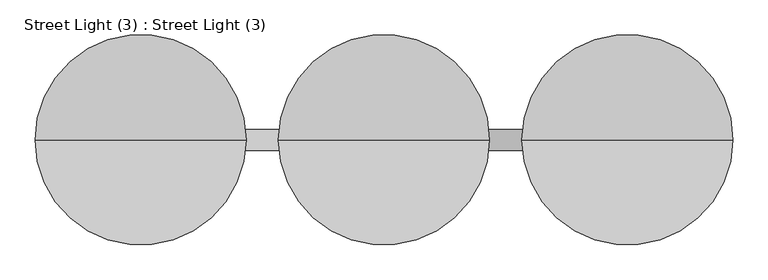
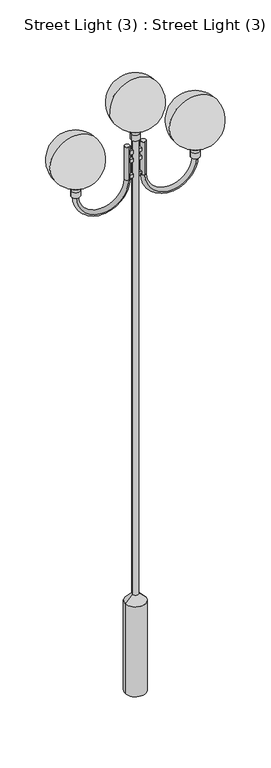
"""IFC4 building model written with IfcOpenShell, lengths in millimetres: light fixture geometry, Street Light (3) : Street Light (3)."""

from ifc_helpers import new_model, si_unit, point, frame, origin, place, context, project, spatial, polyline, circle_curve, ellipse_curve, trimmed, outline, extrude, source, transform, mapped, element, save
from ifc_brep_helpers import plane_surface, cylinder_surface, revolved_surface, advanced_brep


def street_light_3_street_light_3_fb53024a(model_context):
    return source(origin(), model_context, "Body", "SolidModel", [
        extrude(outline(polyline([(37.4827183, -7.5), (12.4827183, -7.5), (12.4827183, 7.5), (37.4827183, 7.5), (37.4827183, -7.5)])), frame((0.0, 0.0, 3149.3264136), z_axis=(0.0, 0.0, 1.0), x_axis=(1.0, 0.0, 0.0)), (0.0, 0.0, 1.0), 21.9701638),
        extrude(outline(polyline([(37.4827183, -7.5), (12.4827183, -7.5), (12.4827183, 7.5), (37.4827183, 7.5), (37.4827183, -7.5)])), frame((0.0, 0.0, 3244.3264136), z_axis=(0.0, 0.0, 1.0), x_axis=(1.0, 0.0, 0.0)), (0.0, 0.0, 1.0), 21.9701638),
        extrude(outline(polyline([(37.4827183, -7.5), (12.4827183, -7.5), (12.4827183, 7.5), (37.4827183, 7.5), (37.4827183, -7.5)])), frame((0.0, 0.0, 3294.3264136), z_axis=(0.0, 0.0, 1.0), x_axis=(1.0, 0.0, 0.0)), (0.0, 0.0, 1.0), 21.9701638),
        extrude(outline(polyline([(-12.4827183, -7.5), (-37.4827183, -7.5), (-37.4827183, 7.5), (-12.4827183, 7.5), (-12.4827183, -7.5)])), frame((0.0, 0.0, 3149.3264136), z_axis=(0.0, 0.0, 1.0), x_axis=(1.0, 0.0, 0.0)), (0.0, 0.0, 1.0), 21.9701638),
        extrude(outline(polyline([(-12.4827183, -7.5), (-37.4827183, -7.5), (-37.4827183, 7.5), (-12.4827183, 7.5), (-12.4827183, -7.5)])), frame((0.0, 0.0, 3244.3264136), z_axis=(0.0, 0.0, 1.0), x_axis=(1.0, 0.0, 0.0)), (0.0, 0.0, 1.0), 21.9701638),
        extrude(outline(polyline([(-12.4827183, -7.5), (-37.4827183, -7.5), (-37.4827183, 7.5), (-12.4827183, 7.5), (-12.4827183, -7.5)])), frame((0.0, 0.0, 3294.3264136), z_axis=(0.0, 0.0, 1.0), x_axis=(1.0, 0.0, 0.0)), (0.0, 0.0, 1.0), 21.9701638),
        advanced_brep(
        [(346.4347451, 0.0, 3221.5084217), (315.9098243, 0.0, 3221.5084217), (376.959666, 0.0, 3221.5084217), (346.4347451, 0.0, 3518.3696801)],
        [
            (0, 1),
            (1, 2, circle_curve(frame((346.4347451, 0.0, 3221.5084217), z_axis=(0.0, 0.0, -1.0), x_axis=(-1.0, 0.0, 0.0)), 30.5249209)),
            (2, 0),
            (2, 1, circle_curve(frame((346.4347451, 0.0, 3221.5084217), z_axis=(0.0, 0.0, -1.0), x_axis=(-1.0, 0.0, 0.0)), 30.5249209)),
            (1, 3, circle_curve(frame((346.4347451, 0.0, 3368.3696801), z_axis=(0.0, 1.0, 0.0), x_axis=(1.0, 0.0, 0.0)), 150.0)),
            (3, 2, circle_curve(frame((346.4347451, 0.0, 3368.3696801), z_axis=(0.0, 1.0, 0.0), x_axis=(-1.0, 0.0, 0.0)), 150.0)),
        ],
        [
            plane_surface(frame((346.4347451, 0.0, 3221.5084217), z_axis=(0.0, 0.0, -1.0), x_axis=(-1.0, 0.0, 0.0))),
            revolved_surface(trimmed(ellipse_curve(frame((346.4347451, 0.0, 3368.3696801), z_axis=(0.0, -1.0, 0.0), x_axis=(1.0, 0.0, 0.0)), 150.0, 150.0), [point((346.4347451, 0.0, 3518.3696801))], [point((315.9098243, 0.0, 3221.5084217))], True, "CARTESIAN"), (346.4347451, 0.0, 3149.6745769), (0.0, 0.0, -1.0)),
        ],
        [
            (0, [[1, 2, 3]]),
            (0, [[-3, 4, -1]]),
            (1, [[-2, 5, 6]]),
            (1, [[-4, -6, -5]]),
        ],
    ),
        advanced_brep(
        [(0.0, 0.0, 3451.1109669), (-30.5249209, 0.0, 3451.1109669), (30.5249209, 0.0, 3451.1109669), (0.0, 0.0, 3747.9722252)],
        [
            (0, 1),
            (1, 2, circle_curve(frame((0.0, 0.0, 3451.1109669), z_axis=(0.0, 0.0, -1.0), x_axis=(-1.0, 0.0, 0.0)), 30.5249209)),
            (2, 0),
            (2, 1, circle_curve(frame((0.0, 0.0, 3451.1109669), z_axis=(0.0, 0.0, -1.0), x_axis=(-1.0, 0.0, 0.0)), 30.5249209)),
            (1, 3, circle_curve(frame((0.0, 0.0, 3597.9722252), z_axis=(0.0, 1.0, 0.0), x_axis=(1.0, 0.0, 0.0)), 150.0)),
            (3, 2, circle_curve(frame((0.0, 0.0, 3597.9722252), z_axis=(0.0, 1.0, 0.0), x_axis=(-1.0, 0.0, 0.0)), 150.0)),
        ],
        [
            plane_surface(frame((0.0, 0.0, 3451.1109669), z_axis=(0.0, 0.0, -1.0), x_axis=(-1.0, 0.0, 0.0))),
            revolved_surface(trimmed(ellipse_curve(frame((0.0, 0.0, 3597.9722252), z_axis=(0.0, -1.0, 0.0), x_axis=(1.0, 0.0, 0.0)), 150.0, 150.0), [point((0.0, 0.0, 3747.9722252))], [point((-30.5249209, 0.0, 3451.1109669))], True, "CARTESIAN"), (0.0, 0.0, 3379.2771221), (0.0, 0.0, -1.0)),
        ],
        [
            (0, [[1, 2, 3]]),
            (0, [[-3, 4, -1]]),
            (1, [[-2, 5, 6]]),
            (1, [[-4, -6, -5]]),
        ],
    ),
        advanced_brep(
        [(46.4347451, 15.0, 3349.6745769), (46.4347451, -15.0, 3349.6745769), (46.4347451, 15.0, 3149.6745769), (46.4347451, -15.0, 3149.6745769), (346.4347451, 15.0, 3149.6745769), (346.4347451, -15.0, 3149.6745769)],
        [
            (0, 1, circle_curve(frame((46.4347451, 0.0, 3349.6745769), z_axis=(0.0, 0.0, 1.0), x_axis=(0.0, -1.0, 0.0)), 15.0)),
            (1, 0, circle_curve(frame((46.4347451, 0.0, 3349.6745769), z_axis=(0.0, 0.0, 1.0), x_axis=(0.0, -1.0, 0.0)), 15.0)),
            (0, 2),
            (2, 3, circle_curve(frame((46.4347451, 0.0, 3149.6745769), z_axis=(0.0, 0.0, 1.0), x_axis=(0.0, -1.0, 0.0)), 15.0)),
            (3, 1),
            (3, 2, circle_curve(frame((46.4347451, 0.0, 3149.6745769), z_axis=(0.0, 0.0, 1.0), x_axis=(0.0, -1.0, 0.0)), 15.0)),
            (4, 5, circle_curve(frame((346.4347451, 0.0, 3149.6745769), z_axis=(0.0, 0.0, 1.0), x_axis=(0.0, -1.0, 0.0)), 15.0)),
            (5, 4, circle_curve(frame((346.4347451, 0.0, 3149.6745769), z_axis=(0.0, 0.0, 1.0), x_axis=(0.0, -1.0, 0.0)), 15.0)),
            (5, 3, circle_curve(frame((196.4347451, -15.0, 3149.6745769), z_axis=(0.0, 1.0, 0.0), x_axis=(-1.0, 0.0, 0.0)), 150.0)),
            (2, 4, circle_curve(frame((196.4347451, 15.0, 3149.6745769), z_axis=(0.0, -1.0, 0.0), x_axis=(-1.0, 0.0, 0.0)), 150.0)),
        ],
        [
            plane_surface(frame((46.4347451, 0.0, 3349.6745769), z_axis=(0.0, 0.0, 1.0), x_axis=(0.0, -1.0, 0.0))),
            cylinder_surface(frame((46.4347451, 0.0, 3349.6745769), z_axis=(0.0, 0.0, 1.0), x_axis=(0.0, -1.0, 0.0)), 15.0),
            plane_surface(frame((346.4347451, 0.0, 3149.6745769), z_axis=(0.0, 0.0, 1.0), x_axis=(0.0, -1.0, 0.0))),
            revolved_surface(trimmed(ellipse_curve(frame((46.4347451, 0.0, 3149.6745769), z_axis=(0.0, 0.0, 1.0), x_axis=(0.0, -1.0, 0.0)), 15.0, 15.0), [point((46.4347451, 15.0, 3149.6745769))], [point((46.4347451, -15.0, 3149.6745769))], True, "CARTESIAN"), (196.4347451, 0.0, 3149.6745769), (0.0, -1.0, 0.0)),
            revolved_surface(trimmed(ellipse_curve(frame((46.4347451, 0.0, 3149.6745769), z_axis=(0.0, 0.0, 1.0), x_axis=(0.0, -1.0, 0.0)), 15.0, 15.0), [point((46.4347451, -15.0, 3149.6745769))], [point((46.4347451, 15.0, 3149.6745769))], True, "CARTESIAN"), (196.4347451, 0.0, 3149.6745769), (0.0, -1.0, 0.0)),
        ],
        [
            (0, [[1, 2]]),
            (1, [[-1, 3, 4, 5]]),
            (1, [[-2, -5, 6, -3]]),
            (2, [[7, 8]]),
            (3, [[9, -4, 10, -8]]),
            (4, [[-10, -6, -9, -7]]),
        ],
    ),
        advanced_brep(
        [(-48.5652549, 15.0, 3349.6745769), (-48.5652549, -15.0, 3349.6745769), (-48.5652549, 15.0, 3149.6745769), (-48.5652549, -15.0, 3149.6745769), (-348.5652549, 15.0, 3149.6745769), (-348.5652549, -15.0, 3149.6745769)],
        [
            (0, 1, circle_curve(frame((-48.5652549, 0.0, 3349.6745769), z_axis=(0.0, 0.0, 1.0), x_axis=(0.0, -1.0, 0.0)), 15.0)),
            (1, 0, circle_curve(frame((-48.5652549, 0.0, 3349.6745769), z_axis=(0.0, 0.0, 1.0), x_axis=(0.0, -1.0, 0.0)), 15.0)),
            (0, 2),
            (2, 3, circle_curve(frame((-48.5652549, 0.0, 3149.6745769), z_axis=(0.0, 0.0, 1.0), x_axis=(0.0, -1.0, 0.0)), 15.0)),
            (3, 1),
            (3, 2, circle_curve(frame((-48.5652549, 0.0, 3149.6745769), z_axis=(0.0, 0.0, 1.0), x_axis=(0.0, -1.0, 0.0)), 15.0)),
            (4, 5, circle_curve(frame((-348.5652549, 0.0, 3149.6745769), z_axis=(0.0, 0.0, 1.0), x_axis=(0.0, -1.0, 0.0)), 15.0)),
            (5, 4, circle_curve(frame((-348.5652549, 0.0, 3149.6745769), z_axis=(0.0, 0.0, 1.0), x_axis=(0.0, -1.0, 0.0)), 15.0)),
            (5, 3, circle_curve(frame((-198.5652549, -15.0, 3149.6745769), z_axis=(0.0, -1.0, 0.0), x_axis=(1.0, 0.0, 0.0)), 150.0)),
            (2, 4, circle_curve(frame((-198.5652549, 15.0, 3149.6745769), z_axis=(0.0, 1.0, 0.0), x_axis=(1.0, 0.0, 0.0)), 150.0)),
        ],
        [
            plane_surface(frame((-48.5652549, 0.0, 3349.6745769), z_axis=(0.0, 0.0, 1.0), x_axis=(0.0, -1.0, 0.0))),
            cylinder_surface(frame((-48.5652549, 0.0, 3349.6745769), z_axis=(0.0, 0.0, 1.0), x_axis=(0.0, -1.0, 0.0)), 15.0),
            plane_surface(frame((-348.5652549, 0.0, 3149.6745769), z_axis=(0.0, 0.0, 1.0), x_axis=(0.0, -1.0, 0.0))),
            revolved_surface(trimmed(ellipse_curve(frame((-48.5652549, 0.0, 3149.6745769), z_axis=(0.0, 0.0, 1.0), x_axis=(0.0, -1.0, 0.0)), 15.0, 15.0), [point((-48.5652549, 15.0, 3149.6745769))], [point((-48.5652549, -15.0, 3149.6745769))], True, "CARTESIAN"), (-198.5652549, 0.0, 3149.6745769), (0.0, 1.0, 0.0)),
            revolved_surface(trimmed(ellipse_curve(frame((-48.5652549, 0.0, 3149.6745769), z_axis=(0.0, 0.0, 1.0), x_axis=(0.0, -1.0, 0.0)), 15.0, 15.0), [point((-48.5652549, -15.0, 3149.6745769))], [point((-48.5652549, 15.0, 3149.6745769))], True, "CARTESIAN"), (-198.5652549, 0.0, 3149.6745769), (0.0, 1.0, 0.0)),
        ],
        [
            (0, [[1, 2]]),
            (1, [[-1, 3, 4, 5]]),
            (1, [[-2, -5, 6, -3]]),
            (2, [[7, 8]]),
            (3, [[9, -4, 10, -8]]),
            (4, [[-10, -6, -9, -7]]),
        ],
    ),
        advanced_brep(
        [(346.4347451, 0.0, 3149.6745769), (371.4347451, 0.0, 3149.6745769), (321.4347451, 0.0, 3149.6745769), (286.4347451, 0.0, 3226.5084217), (406.4347451, 0.0, 3226.5084217), (346.4347451, 0.0, 3226.5084217), (321.4347451, 0.0, 3184.6745769), (371.4347451, 0.0, 3184.6745769)],
        [
            (0, 1),
            (1, 2, circle_curve(frame((346.4347451, 0.0, 3149.6745769), z_axis=(0.0, 0.0, -1.0), x_axis=(1.0, 0.0, 0.0)), 25.0)),
            (2, 0),
            (2, 1, circle_curve(frame((346.4347451, 0.0, 3149.6745769), z_axis=(0.0, 0.0, -1.0), x_axis=(1.0, 0.0, 0.0)), 25.0)),
            (3, 4, circle_curve(frame((346.4347451, 0.0, 3226.5084217), z_axis=(0.0, 0.0, 1.0), x_axis=(1.0, 0.0, 0.0)), 60.0)),
            (4, 5),
            (5, 3),
            (4, 3, circle_curve(frame((346.4347451, 0.0, 3226.5084217), z_axis=(0.0, 0.0, 1.0), x_axis=(1.0, 0.0, 0.0)), 60.0)),
            (6, 7, circle_curve(frame((346.4347451, 0.0, 3184.6745769), z_axis=(0.0, 0.0, 1.0), x_axis=(1.0, 0.0, 0.0)), 25.0)),
            (7, 4, circle_curve(frame((410.9980471, 0.0, 3187.1323887), z_axis=(0.0, 1.0, 0.0), x_axis=(-1.0, 0.0, 0.0)), 39.6395724)),
            (3, 6, circle_curve(frame((281.8714432, 0.0, 3187.1323887), z_axis=(0.0, 1.0, 0.0), x_axis=(1.0, 0.0, 0.0)), 39.6395724)),
            (7, 6, circle_curve(frame((346.4347451, 0.0, 3184.6745769), z_axis=(0.0, 0.0, 1.0), x_axis=(1.0, 0.0, 0.0)), 25.0)),
            (1, 7),
            (6, 2),
        ],
        [
            plane_surface(frame((346.4347451, 0.0, 3149.6745769), z_axis=(0.0, 0.0, -1.0), x_axis=(1.0, 0.0, 0.0))),
            plane_surface(frame((346.4347451, 0.0, 3226.5084217), z_axis=(0.0, 0.0, 1.0), x_axis=(1.0, 0.0, 0.0))),
            revolved_surface(trimmed(ellipse_curve(frame((410.9980471, 0.0, 3187.1323887), z_axis=(0.0, -1.0, 0.0), x_axis=(-1.0, 0.0, 0.0)), 39.6395724, 39.6395724), [point((406.4347451, 0.0, 3226.5084217))], [point((371.4347451, 0.0, 3184.6745769))], True, "CARTESIAN"), (346.4347451, 0.0, 3149.6745769), (0.0, 0.0, -1.0)),
            cylinder_surface(frame((346.4347451, 0.0, 3149.6745769), z_axis=(0.0, 0.0, -1.0), x_axis=(1.0, 0.0, 0.0)), 25.0),
        ],
        [
            (0, [[1, 2, 3]]),
            (0, [[-3, 4, -1]]),
            (1, [[5, 6, 7]]),
            (1, [[8, -7, -6]]),
            (2, [[9, 10, -5, 11]]),
            (2, [[12, -11, -8, -10]]),
            (3, [[-2, 13, -9, 14]]),
            (3, [[-4, -14, -12, -13]]),
        ],
    ),
        advanced_brep(
        [(-346.1779673, 0.0, 3221.5084217), (-376.7028882, 0.0, 3221.5084217), (-315.6530464, 0.0, 3221.5084217), (-346.1779673, 0.0, 3518.3696801)],
        [
            (0, 1),
            (1, 2, circle_curve(frame((-346.1779673, 0.0, 3221.5084217), z_axis=(0.0, 0.0, -1.0), x_axis=(-1.0, 0.0, 0.0)), 30.5249209)),
            (2, 0),
            (2, 1, circle_curve(frame((-346.1779673, 0.0, 3221.5084217), z_axis=(0.0, 0.0, -1.0), x_axis=(-1.0, 0.0, 0.0)), 30.5249209)),
            (1, 3, circle_curve(frame((-346.1779673, 0.0, 3368.3696801), z_axis=(0.0, 1.0, 0.0), x_axis=(1.0, 0.0, 0.0)), 150.0)),
            (3, 2, circle_curve(frame((-346.1779673, 0.0, 3368.3696801), z_axis=(0.0, 1.0, 0.0), x_axis=(-1.0, 0.0, 0.0)), 150.0)),
        ],
        [
            plane_surface(frame((-346.1779673, 0.0, 3221.5084217), z_axis=(0.0, 0.0, -1.0), x_axis=(-1.0, 0.0, 0.0))),
            revolved_surface(trimmed(ellipse_curve(frame((-346.1779673, 0.0, 3368.3696801), z_axis=(0.0, -1.0, 0.0), x_axis=(1.0, 0.0, 0.0)), 150.0, 150.0), [point((-346.1779673, 0.0, 3518.3696801))], [point((-376.7028882, 0.0, 3221.5084217))], True, "CARTESIAN"), (-346.1779673, 0.0, 3149.6745769), (0.0, 0.0, -1.0)),
        ],
        [
            (0, [[1, 2, 3]]),
            (0, [[-3, 4, -1]]),
            (1, [[-2, 5, 6]]),
            (1, [[-4, -6, -5]]),
        ],
    ),
        advanced_brep(
        [(-346.1779673, 0.0, 3149.6745769), (-371.1779673, 0.0, 3149.6745769), (-321.1779673, 0.0, 3149.6745769), (-286.1779673, 0.0, 3226.5084217), (-406.1779673, 0.0, 3226.5084217), (-346.1779673, 0.0, 3226.5084217), (-321.1779673, 0.0, 3184.6745769), (-371.1779673, 0.0, 3184.6745769)],
        [
            (0, 1),
            (1, 2, circle_curve(frame((-346.1779673, 0.0, 3149.6745769), z_axis=(0.0, 0.0, -1.0), x_axis=(-0.9999999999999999, 0.0, 0.0)), 25.0)),
            (2, 0),
            (2, 1, circle_curve(frame((-346.1779673, 0.0, 3149.6745769), z_axis=(0.0, 0.0, -1.0), x_axis=(-0.9999999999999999, 0.0, 0.0)), 25.0)),
            (3, 4, circle_curve(frame((-346.1779673, 0.0, 3226.5084217), z_axis=(0.0, 0.0, 1.0), x_axis=(-0.9999999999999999, 0.0, 0.0)), 60.0)),
            (4, 5),
            (5, 3),
            (4, 3, circle_curve(frame((-346.1779673, 0.0, 3226.5084217), z_axis=(0.0, 0.0, 1.0), x_axis=(-0.9999999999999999, 0.0, 0.0)), 60.0)),
            (6, 7, circle_curve(frame((-346.1779673, 0.0, 3184.6745769), z_axis=(0.0, 0.0, 1.0), x_axis=(-0.9999999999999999, 0.0, 0.0)), 25.0)),
            (7, 4, circle_curve(frame((-410.7412692, 0.0, 3187.1323887), z_axis=(0.0, -1.0, 0.0), x_axis=(0.9999999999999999, 0.0, 0.0)), 39.6395724)),
            (3, 6, circle_curve(frame((-281.6146653, 0.0, 3187.1323887), z_axis=(0.0, -1.0, 0.0), x_axis=(-0.9999999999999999, 0.0, 0.0)), 39.6395724)),
            (7, 6, circle_curve(frame((-346.1779673, 0.0, 3184.6745769), z_axis=(0.0, 0.0, 1.0), x_axis=(-0.9999999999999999, 0.0, 0.0)), 25.0)),
            (1, 7),
            (6, 2),
        ],
        [
            plane_surface(frame((-346.1779673, 0.0, 3149.6745769), z_axis=(0.0, 0.0, -1.0), x_axis=(-1.0, 0.0, 0.0))),
            plane_surface(frame((-346.1779673, 0.0, 3226.5084217), z_axis=(0.0, 0.0, 1.0), x_axis=(-1.0, 0.0, 0.0))),
            revolved_surface(trimmed(ellipse_curve(frame((-410.7412692, 0.0, 3187.1323887), z_axis=(0.0, 1.0, 0.0), x_axis=(0.9999999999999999, 0.0, 0.0)), 39.6395724, 39.6395724), [point((-406.1779673, 0.0, 3226.5084217))], [point((-371.1779673, 0.0, 3184.6745769))], True, "CARTESIAN"), (-346.1779673, 0.0, 3149.6745769), (0.0, 0.0, -0.9999999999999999)),
            cylinder_surface(frame((-346.1779673, 0.0, 3149.6745769), z_axis=(0.0, 0.0, -0.9999999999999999), x_axis=(-0.9999999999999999, 0.0, 0.0)), 25.0),
        ],
        [
            (0, [[1, 2, 3]]),
            (0, [[-3, 4, -1]]),
            (1, [[5, 6, 7]]),
            (1, [[8, -7, -6]]),
            (2, [[9, 10, -5, 11]]),
            (2, [[12, -11, -8, -10]]),
            (3, [[-2, 13, -9, 14]]),
            (3, [[-4, -14, -12, -13]]),
        ],
    ),
        advanced_brep(
        [(0.0, 0.0, 0.0), (-60.0, 0.0, 0.0), (60.0, 0.0, 0.0), (60.0, 0.0, 3456.1109669), (-60.0, 0.0, 3456.1109669), (0.0, 0.0, 3456.1109669), (25.0, 0.0, 3414.2771221), (-25.0, 0.0, 3414.2771221), (25.0, 0.0, 3379.2771221), (-25.0, 0.0, 3379.2771221), (17.5735931, 0.0, 3379.2771221), (-17.5735931, 0.0, 3379.2771221), (17.5735931, 0.0, 592.4264069), (-17.5735931, 0.0, 592.4264069), (60.0, 0.0, 550.0), (-60.0, 0.0, 550.0)],
        [
            (0, 1),
            (1, 2, circle_curve(frame((0.0, 0.0, 0.0), z_axis=(0.0, 0.0, -1.0), x_axis=(-1.0, 0.0, 0.0)), 60.0)),
            (2, 0),
            (2, 1, circle_curve(frame((0.0, 0.0, 0.0), z_axis=(0.0, 0.0, -1.0), x_axis=(-1.0, 0.0, 0.0)), 60.0)),
            (3, 4, circle_curve(frame((0.0, 0.0, 3456.1109669), z_axis=(0.0, 0.0, 1.0), x_axis=(-1.0, 0.0, 0.0)), 60.0)),
            (4, 5),
            (5, 3),
            (4, 3, circle_curve(frame((0.0, 0.0, 3456.1109669), z_axis=(0.0, 0.0, 1.0), x_axis=(-1.0, 0.0, 0.0)), 60.0)),
            (6, 7, circle_curve(frame((0.0, 0.0, 3414.2771221), z_axis=(0.0, 0.0, 1.0), x_axis=(-1.0, 0.0, 0.0)), 25.0)),
            (7, 4, circle_curve(frame((-64.5633019, 0.0, 3416.7349339), z_axis=(0.0, -1.0, 0.0), x_axis=(1.0, 0.0, 0.0)), 39.6395724)),
            (3, 6, circle_curve(frame((64.5633019, 0.0, 3416.7349339), z_axis=(0.0, -1.0, 0.0), x_axis=(-1.0, 0.0, 0.0)), 39.6395724)),
            (7, 6, circle_curve(frame((0.0, 0.0, 3414.2771221), z_axis=(0.0, 0.0, 1.0), x_axis=(-1.0, 0.0, 0.0)), 25.0)),
            (8, 9, circle_curve(frame((0.0, 0.0, 3379.2771221), z_axis=(0.0, 0.0, 1.0), x_axis=(-1.0, 0.0, 0.0)), 25.0)),
            (9, 7),
            (6, 8),
            (9, 8, circle_curve(frame((0.0, 0.0, 3379.2771221), z_axis=(0.0, 0.0, 1.0), x_axis=(-1.0, 0.0, 0.0)), 25.0)),
            (10, 11, circle_curve(frame((0.0, 0.0, 3379.2771221), z_axis=(0.0, 0.0, 1.0), x_axis=(-1.0, 0.0, 0.0)), 17.5735931)),
            (11, 9),
            (8, 10),
            (11, 10, circle_curve(frame((0.0, 0.0, 3379.2771221), z_axis=(0.0, 0.0, 1.0), x_axis=(-1.0, 0.0, 0.0)), 17.5735931)),
            (12, 13, circle_curve(frame((0.0, 0.0, 592.4264069), z_axis=(0.0, 0.0, 1.0), x_axis=(-1.0, 0.0, 0.0)), 17.5735931)),
            (13, 11),
            (10, 12),
            (13, 12, circle_curve(frame((0.0, 0.0, 592.4264069), z_axis=(0.0, 0.0, 1.0), x_axis=(-1.0, 0.0, 0.0)), 17.5735931)),
            (14, 15, circle_curve(frame((0.0, 0.0, 550.0), z_axis=(0.0, 0.0, 1.0), x_axis=(-1.0, 0.0, 0.0)), 60.0)),
            (15, 13),
            (12, 14),
            (15, 14, circle_curve(frame((0.0, 0.0, 550.0), z_axis=(0.0, 0.0, 1.0), x_axis=(-1.0, 0.0, 0.0)), 60.0)),
            (1, 15),
            (14, 2),
        ],
        [
            plane_surface(frame((0.0, 0.0, 0.0), z_axis=(0.0, 0.0, -1.0), x_axis=(-1.0, 0.0, 0.0))),
            plane_surface(frame((0.0, 0.0, 3456.1109669), z_axis=(0.0, 0.0, 1.0), x_axis=(-1.0, 0.0, 0.0))),
            revolved_surface(trimmed(ellipse_curve(frame((-64.5633019, 0.0, 3416.7349339), z_axis=(0.0, 1.0, 0.0), x_axis=(1.0, 0.0, 0.0)), 39.6395724, 39.6395724), [point((-60.0, 0.0, 3456.1109669))], [point((-25.0, 0.0, 3414.2771221))], True, "CARTESIAN"), (0.0, 0.0, -271.6956879), (0.0, 0.0, -1.0)),
            cylinder_surface(frame((0.0, 0.0, -271.6956879), z_axis=(0.0, 0.0, -1.0), x_axis=(-1.0, 0.0, 0.0)), 25.0),
            plane_surface(frame((0.0, 0.0, 3379.2771221), z_axis=(0.0, 0.0, -1.0), x_axis=(-1.0, 0.0, 0.0))),
            cylinder_surface(frame((0.0, 0.0, -271.6956879), z_axis=(0.0, 0.0, -1.0), x_axis=(-1.0, 0.0, 0.0)), 17.5735931),
            revolved_surface(polyline([(-17.5735931, 0.0, 592.4264069), (-60.0, 0.0, 550.0)]), (0.0, 0.0, -271.6956879), (0.0, 0.0, -1.0)),
            cylinder_surface(frame((0.0, 0.0, -271.6956879), z_axis=(0.0, 0.0, -1.0), x_axis=(-1.0, 0.0, 0.0)), 60.0),
        ],
        [
            (0, [[1, 2, 3]]),
            (0, [[-3, 4, -1]]),
            (1, [[5, 6, 7]]),
            (1, [[8, -7, -6]]),
            (2, [[9, 10, -5, 11]]),
            (2, [[12, -11, -8, -10]]),
            (3, [[13, 14, -9, 15]]),
            (3, [[16, -15, -12, -14]]),
            (4, [[17, 18, -13, 19]]),
            (4, [[20, -19, -16, -18]]),
            (5, [[21, 22, -17, 23]]),
            (5, [[24, -23, -20, -22]]),
            (6, [[25, 26, -21, 27]]),
            (6, [[28, -27, -24, -26]]),
            (7, [[-2, 29, -25, 30]]),
            (7, [[-4, -30, -28, -29]]),
        ],
    ),
    ])


if __name__ == "__main__":
    model = new_model("IFC4")
    model_context = context("Model", 3, world=origin())
    ifc_project = project(units=[si_unit("LENGTHUNIT", "METRE", prefix="MILLI")], contexts=[model_context])
    site = spatial("IfcSite", under=ifc_project)
    building = spatial("IfcBuilding", under=site)
    placement = place(None, origin())
    street_light_3_street_light_3_shape = street_light_3_street_light_3_fb53024a(model_context)
    element("IfcLightFixture", 1, ObjectType="Street Light (3) : Street Light (3)", at=placement, inside=building, context=model_context, shape_type="MappedRepresentation", body=[
        mapped(street_light_3_street_light_3_shape, transform((0.0, 0.0, 0.0), x_axis=(1.0, 0.0, 0.0), y_axis=(0.0, 1.0, 0.0), z_axis=(0.0, 0.0, 1.0))),
    ])
    save(model, "model.ifc")
